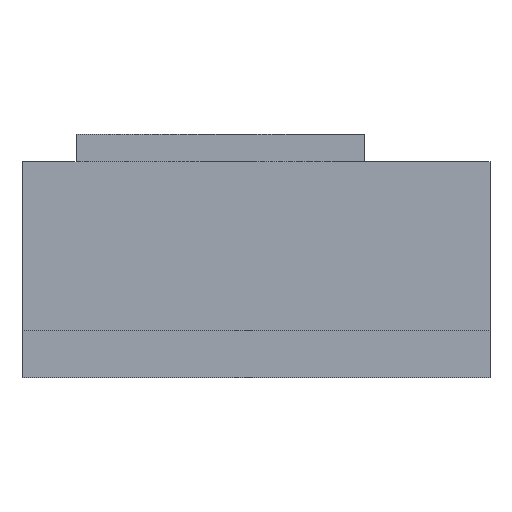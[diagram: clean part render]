
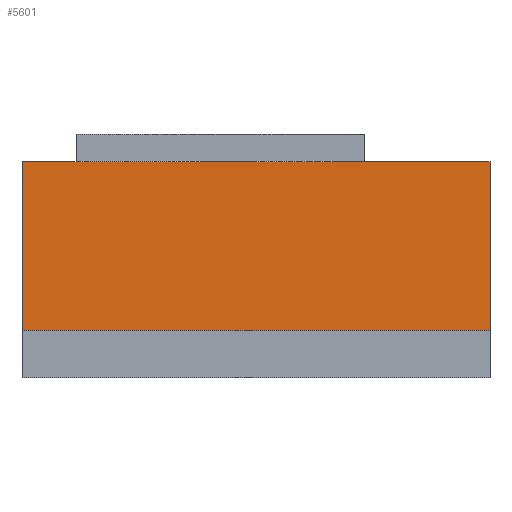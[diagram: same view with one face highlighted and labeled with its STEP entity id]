
A CAD part, front view. The second image highlights one B-rep face of the part: STEP entity #5601.
In plain terms, the highlighted planar face has unit normal (0, -1, 0) as drawn and (-1, 0, 0) by its records, which use the part's own axes.
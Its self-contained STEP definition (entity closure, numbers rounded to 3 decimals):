
#124 = FACE_OUTER_BOUND ( 'NONE', #2600, .T. ) ;
#265 = EDGE_CURVE ( 'NONE', #1194, #2455, #1594, .T. ) ;
#391 = CARTESIAN_POINT ( 'NONE',  ( -123.905, -65., 47. ) ) ;
#815 = VERTEX_POINT ( 'NONE', #391 ) ;
#816 = VECTOR ( 'NONE', #3390, 1000. ) ;
#840 = DIRECTION ( 'NONE',  ( 1., 0., 0. ) ) ;
#975 = LINE ( 'NONE', #1127, #3397 ) ;
#1127 = CARTESIAN_POINT ( 'NONE',  ( -123.905, 65., 47. ) ) ;
#1194 = VERTEX_POINT ( 'NONE', #2700 ) ;
#1224 = ORIENTED_EDGE ( 'NONE', *, *, #1353, .T. ) ;
#1286 = DIRECTION ( 'NONE',  ( 0., 1., 0. ) ) ;
#1353 = EDGE_CURVE ( 'NONE', #1194, #815, #5506, .T. ) ;
#1563 = ORIENTED_EDGE ( 'NONE', *, *, #265, .F. ) ;
#1575 = VECTOR ( 'NONE', #2768, 1000. ) ;
#1594 = LINE ( 'NONE', #3837, #4515 ) ;
#2455 = VERTEX_POINT ( 'NONE', #5675 ) ;
#2600 = EDGE_LOOP ( 'NONE', ( #4816, #2835, #1563, #1224 ) ) ;
#2700 = CARTESIAN_POINT ( 'NONE',  ( -123.905, -65., 0. ) ) ;
#2754 = EDGE_CURVE ( 'NONE', #2455, #3867, #3088, .T. ) ;
#2755 = CARTESIAN_POINT ( 'NONE',  ( -123.905, 65., -133. ) ) ;
#2768 = DIRECTION ( 'NONE',  ( 0., 0., 1. ) ) ;
#2835 = ORIENTED_EDGE ( 'NONE', *, *, #2754, .F. ) ;
#3088 = LINE ( 'NONE', #2755, #1575 ) ;
#3390 = DIRECTION ( 'NONE',  ( 0., 0., 1. ) ) ;
#3397 = VECTOR ( 'NONE', #4311, 1000. ) ;
#3427 = CARTESIAN_POINT ( 'NONE',  ( -123.905, -65., -133. ) ) ;
#3837 = CARTESIAN_POINT ( 'NONE',  ( -123.905, 65., 0. ) ) ;
#3867 = VERTEX_POINT ( 'NONE', #5637 ) ;
#4013 = DIRECTION ( 'NONE',  ( 0., 0., -1. ) ) ;
#4311 = DIRECTION ( 'NONE',  ( 0., 1., 0. ) ) ;
#4515 = VECTOR ( 'NONE', #1286, 1000. ) ;
#4816 = ORIENTED_EDGE ( 'NONE', *, *, #5894, .T. ) ;
#4893 = CARTESIAN_POINT ( 'NONE',  ( -123.905, 65., 47. ) ) ;
#5506 = LINE ( 'NONE', #3427, #816 ) ;
#5601 = ADVANCED_FACE ( 'NONE', ( #124 ), #5842, .F. ) ;
#5637 = CARTESIAN_POINT ( 'NONE',  ( -123.905, 65., 47. ) ) ;
#5675 = CARTESIAN_POINT ( 'NONE',  ( -123.905, 65., 0. ) ) ;
#5716 = AXIS2_PLACEMENT_3D ( 'NONE', #4893, #840, #4013 ) ;
#5842 = PLANE ( 'NONE',  #5716 ) ;
#5894 = EDGE_CURVE ( 'NONE', #815, #3867, #975, .T. ) ;
